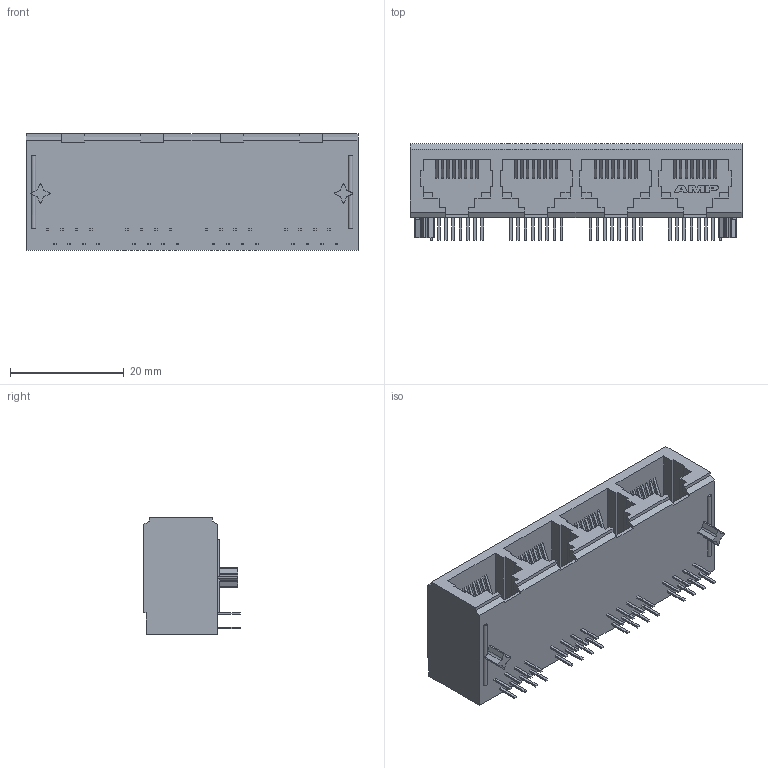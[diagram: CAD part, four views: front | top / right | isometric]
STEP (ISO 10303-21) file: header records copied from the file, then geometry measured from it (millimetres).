
FILE_DESCRIPTION (( 'STEP AP214' ), '1' );
FILE_NAME ('5557562-1.step', '2011-05-17T08:53:39', ( 'vpeshkov' ), ( 'licard' ), 'SwSTEP 2.0', 'SolidWorks 2009', '' );
FILE_SCHEMA (( 'AUTOMOTIVE_DESIGN' ));
Length unit declared in the file: mil
Products named in the file (1): 5557562-1
Bounding box: 58.42 x 16.94 x 20.57 mm (x, y, z)
Volume: 11007.5 mm3; surface area: 7073.8 mm2
Topology: 1 solids, 1 shells, 512 faces, 1405 edges, 934 vertices
Faces by surface type: plane 487, cylinder 23, bspline 2
Entity records: 19536 total; most frequent: CARTESIAN_POINT 2972, ORIENTED_EDGE 2810, DIRECTION 2458, EDGE_CURVE 1405, LINE 1350, VECTOR 1350, VERTEX_POINT 934, EDGE_LOOP 615
